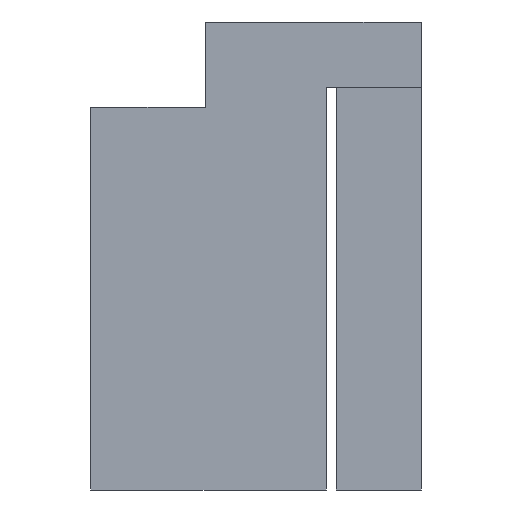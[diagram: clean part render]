
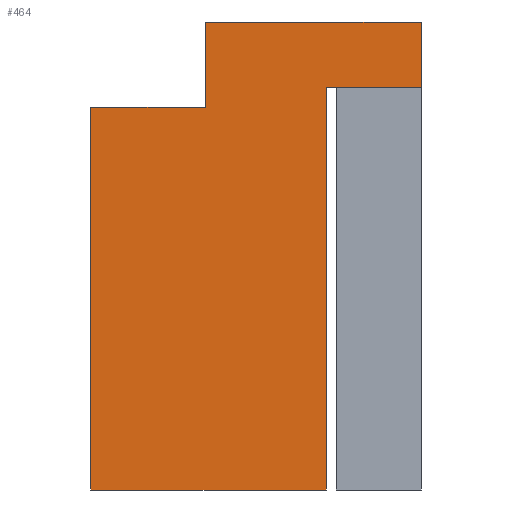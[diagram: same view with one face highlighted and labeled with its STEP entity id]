
A CAD part, front view. The second image highlights one B-rep face of the part: STEP entity #464.
In plain terms, the highlighted planar face has unit normal (0, -1, 0).
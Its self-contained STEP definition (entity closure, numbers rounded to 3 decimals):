
#28=FACE_OUTER_BOUND('',#52,.T.);
#52=EDGE_LOOP('',(#339,#340,#341,#342,#343,#344,#345,#346));
#71=LINE('',#651,#133);
#80=LINE('',#669,#142);
#89=LINE('',#687,#151);
#93=LINE('',#694,#155);
#96=LINE('',#701,#158);
#97=LINE('',#703,#159);
#98=LINE('',#705,#160);
#99=LINE('',#706,#161);
#133=VECTOR('',#529,10.);
#142=VECTOR('',#542,10.);
#151=VECTOR('',#555,10.);
#155=VECTOR('',#561,10.);
#158=VECTOR('',#568,10.);
#159=VECTOR('',#569,10.);
#160=VECTOR('',#570,10.);
#161=VECTOR('',#571,10.);
#195=VERTEX_POINT('',#648);
#196=VERTEX_POINT('',#650);
#203=VERTEX_POINT('',#668);
#210=VERTEX_POINT('',#686);
#212=VERTEX_POINT('',#692);
#214=VERTEX_POINT('',#700);
#215=VERTEX_POINT('',#702);
#216=VERTEX_POINT('',#704);
#239=EDGE_CURVE('',#196,#195,#71,.T.);
#248=EDGE_CURVE('',#203,#196,#80,.T.);
#257=EDGE_CURVE('',#203,#210,#89,.T.);
#261=EDGE_CURVE('',#195,#212,#93,.T.);
#264=EDGE_CURVE('',#214,#212,#96,.T.);
#265=EDGE_CURVE('',#214,#215,#97,.T.);
#266=EDGE_CURVE('',#216,#215,#98,.T.);
#267=EDGE_CURVE('',#210,#216,#99,.T.);
#339=ORIENTED_EDGE('',*,*,#248,.T.);
#340=ORIENTED_EDGE('',*,*,#239,.T.);
#341=ORIENTED_EDGE('',*,*,#261,.T.);
#342=ORIENTED_EDGE('',*,*,#264,.F.);
#343=ORIENTED_EDGE('',*,*,#265,.T.);
#344=ORIENTED_EDGE('',*,*,#266,.F.);
#345=ORIENTED_EDGE('',*,*,#267,.F.);
#346=ORIENTED_EDGE('',*,*,#257,.F.);
#442=PLANE('',#502);
#464=ADVANCED_FACE('',(#28),#442,.F.);
#502=AXIS2_PLACEMENT_3D('',#699,#566,#567);
#529=DIRECTION('',(-1.,0.,0.));
#542=DIRECTION('',(0.,0.,-1.));
#555=DIRECTION('',(1.,0.,0.));
#561=DIRECTION('',(0.,0.,-1.));
#566=DIRECTION('center_axis',(0.,1.,0.));
#567=DIRECTION('ref_axis',(0.,0.,1.));
#568=DIRECTION('',(-1.,0.,0.));
#569=DIRECTION('',(0.,0.,1.));
#570=DIRECTION('',(-1.,0.,0.));
#571=DIRECTION('',(0.,0.,-1.));
#648=CARTESIAN_POINT('',(-36.55,12.5,-6.35));
#650=CARTESIAN_POINT('',(-34.8,12.5,-6.35));
#651=CARTESIAN_POINT('',(-35.4,12.5,-6.35));
#668=CARTESIAN_POINT('',(-34.8,12.5,-5.05));
#669=CARTESIAN_POINT('',(-34.8,12.5,-5.623));
#686=CARTESIAN_POINT('',(-31.5,12.5,-5.05));
#687=CARTESIAN_POINT('',(-34.35,12.5,-5.05));
#692=CARTESIAN_POINT('',(-36.55,12.5,-12.2));
#694=CARTESIAN_POINT('',(-36.55,12.5,-7.11));
#699=CARTESIAN_POINT('Origin',(-34.35,12.5,-5.55));
#700=CARTESIAN_POINT('',(-32.951,12.5,-12.2));
#701=CARTESIAN_POINT('',(-34.9,12.5,-12.2));
#702=CARTESIAN_POINT('',(-32.951,12.5,-6.05));
#703=CARTESIAN_POINT('',(-32.951,12.5,-7.363));
#704=CARTESIAN_POINT('',(-31.5,12.5,-6.05));
#705=CARTESIAN_POINT('',(-34.35,12.5,-6.05));
#706=CARTESIAN_POINT('',(-31.5,12.5,-5.55));
